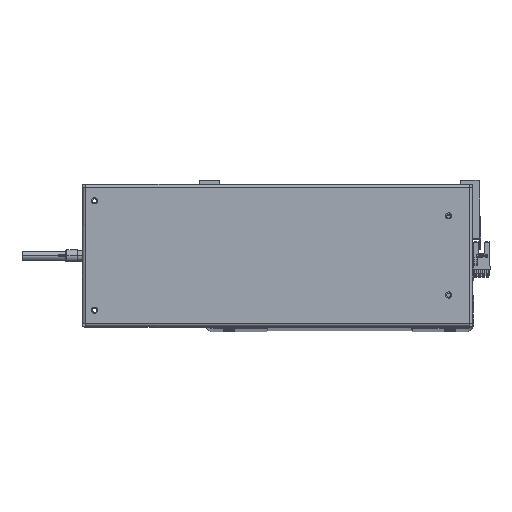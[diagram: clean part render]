
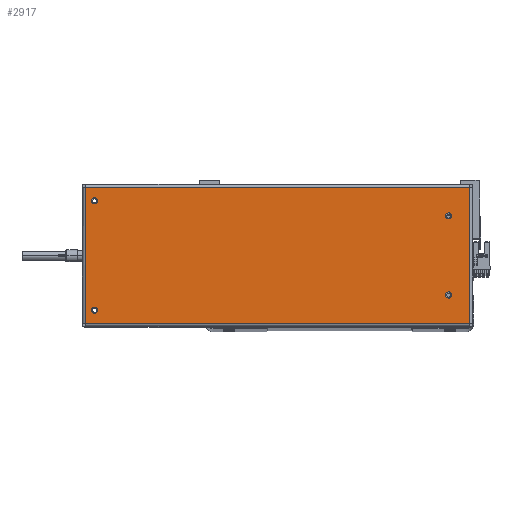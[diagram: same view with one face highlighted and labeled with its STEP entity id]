
A CAD part, top view. The second image highlights one B-rep face of the part: STEP entity #2917.
In plain terms, the highlighted planar face has unit normal (0, 0, 1).
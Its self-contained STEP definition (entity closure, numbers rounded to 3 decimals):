
#676 = FACE_BOUND ( 'NONE', #19652, .T. ) ;
#964 = CARTESIAN_POINT ( 'NONE',  ( 150.5, -45., 0. ) ) ;
#1397 = EDGE_CURVE ( 'NONE', #10500, #5608, #34716, .T. ) ;
#1685 = VECTOR ( 'NONE', #20211, 1000. ) ;
#1742 = CARTESIAN_POINT ( 'NONE',  ( -140.5, 32.5, 0. ) ) ;
#2098 = ORIENTED_EDGE ( 'NONE', *, *, #11345, .F. ) ;
#2169 = ORIENTED_EDGE ( 'NONE', *, *, #33817, .F. ) ;
#2470 = VERTEX_POINT ( 'NONE', #10881 ) ;
#2817 = CARTESIAN_POINT ( 'NONE',  ( -140.5, -32.5, 0. ) ) ;
#2824 = ORIENTED_EDGE ( 'NONE', *, *, #16297, .T. ) ;
#2917 = ADVANCED_FACE ( 'NONE', ( #676, #34354, #12089, #29381, #38343 ), #29781, .F. ) ;
#3432 = CIRCLE ( 'NONE', #30698, 2.5 ) ;
#3864 = VERTEX_POINT ( 'NONE', #33174 ) ;
#3993 = DIRECTION ( 'NONE',  ( 1., 0., 0. ) ) ;
#4047 = DIRECTION ( 'NONE',  ( 0., -1., 0. ) ) ;
#4221 = VERTEX_POINT ( 'NONE', #25212 ) ;
#4460 = AXIS2_PLACEMENT_3D ( 'NONE', #35690, #29140, #9949 ) ;
#4637 = CARTESIAN_POINT ( 'NONE',  ( 157.7, 55.6, 0. ) ) ;
#4733 = CARTESIAN_POINT ( 'NONE',  ( -157.7, -55.6, 0. ) ) ;
#5364 = VERTEX_POINT ( 'NONE', #12574 ) ;
#5484 = ORIENTED_EDGE ( 'NONE', *, *, #39311, .F. ) ;
#5608 = VERTEX_POINT ( 'NONE', #17911 ) ;
#6157 = CARTESIAN_POINT ( 'NONE',  ( -138., 32.5, 0. ) ) ;
#6228 = AXIS2_PLACEMENT_3D ( 'NONE', #2817, #12385, #28397 ) ;
#6769 = CARTESIAN_POINT ( 'NONE',  ( -140.5, 32.5, 0. ) ) ;
#7775 = AXIS2_PLACEMENT_3D ( 'NONE', #28595, #19021, #22356 ) ;
#8294 = CIRCLE ( 'NONE', #11568, 2.5 ) ;
#9499 = VERTEX_POINT ( 'NONE', #41114 ) ;
#9747 = EDGE_CURVE ( 'NONE', #32911, #5364, #28928, .T. ) ;
#9949 = DIRECTION ( 'NONE',  ( 1., 0., 0. ) ) ;
#10094 = DIRECTION ( 'NONE',  ( 0., 0., 1. ) ) ;
#10500 = VERTEX_POINT ( 'NONE', #28614 ) ;
#10881 = CARTESIAN_POINT ( 'NONE',  ( -157.6, -55.6, 0. ) ) ;
#11334 = EDGE_CURVE ( 'NONE', #4221, #27095, #39776, .T. ) ;
#11345 = EDGE_CURVE ( 'NONE', #9499, #12620, #34304, .T. ) ;
#11568 = AXIS2_PLACEMENT_3D ( 'NONE', #964, #23077, #29595 ) ;
#11884 = CIRCLE ( 'NONE', #4460, 2.5 ) ;
#12089 = FACE_BOUND ( 'NONE', #37389, .T. ) ;
#12385 = DIRECTION ( 'NONE',  ( 0., 0., 1. ) ) ;
#12574 = CARTESIAN_POINT ( 'NONE',  ( 153., 45., 0. ) ) ;
#12620 = VERTEX_POINT ( 'NONE', #6157 ) ;
#12955 = EDGE_CURVE ( 'NONE', #40863, #26630, #19819, .T. ) ;
#13022 = ORIENTED_EDGE ( 'NONE', *, *, #11334, .T. ) ;
#13260 = DIRECTION ( 'NONE',  ( 1., 0., 0. ) ) ;
#13309 = DIRECTION ( 'NONE',  ( 0., 0., 1. ) ) ;
#13789 = CARTESIAN_POINT ( 'NONE',  ( 148., 45., 0. ) ) ;
#14067 = DIRECTION ( 'NONE',  ( 1., 0., 0. ) ) ;
#15200 = ORIENTED_EDGE ( 'NONE', *, *, #1397, .F. ) ;
#16288 = DIRECTION ( 'NONE',  ( 0., 0., 1. ) ) ;
#16297 = EDGE_CURVE ( 'NONE', #2470, #3864, #32898, .T. ) ;
#17089 = EDGE_LOOP ( 'NONE', ( #18837, #2098 ) ) ;
#17517 = CARTESIAN_POINT ( 'NONE',  ( 153., -45., 0. ) ) ;
#17911 = CARTESIAN_POINT ( 'NONE',  ( -143., -32.5, 0. ) ) ;
#18837 = ORIENTED_EDGE ( 'NONE', *, *, #27097, .F. ) ;
#19021 = DIRECTION ( 'NONE',  ( 0., 0., 1. ) ) ;
#19099 = EDGE_LOOP ( 'NONE', ( #30674, #2824, #29504, #13022 ) ) ;
#19500 = CARTESIAN_POINT ( 'NONE',  ( -157.6, 55.6, 0. ) ) ;
#19559 = VECTOR ( 'NONE', #4047, 1000. ) ;
#19652 = EDGE_LOOP ( 'NONE', ( #15200, #26435 ) ) ;
#19819 = CIRCLE ( 'NONE', #22435, 2.5 ) ;
#20211 = DIRECTION ( 'NONE',  ( 1., 0., 0. ) ) ;
#22348 = DIRECTION ( 'NONE',  ( 0., 1., 0. ) ) ;
#22356 = DIRECTION ( 'NONE',  ( 1., 0., 0. ) ) ;
#22435 = AXIS2_PLACEMENT_3D ( 'NONE', #29193, #13309, #35465 ) ;
#22868 = AXIS2_PLACEMENT_3D ( 'NONE', #22930, #16288, #3993 ) ;
#22930 = CARTESIAN_POINT ( 'NONE',  ( 150.5, 45., 0. ) ) ;
#23077 = DIRECTION ( 'NONE',  ( 0., 0., 1. ) ) ;
#23454 = DIRECTION ( 'NONE',  ( -1., 0., 0. ) ) ;
#24263 = CIRCLE ( 'NONE', #7775, 2.5 ) ;
#24753 = AXIS2_PLACEMENT_3D ( 'NONE', #1742, #29970, #14067 ) ;
#25212 = CARTESIAN_POINT ( 'NONE',  ( 157.6, 55.6, 0. ) ) ;
#25486 = VECTOR ( 'NONE', #22348, 1000. ) ;
#25709 = CARTESIAN_POINT ( 'NONE',  ( -157.6, 55.6, 0. ) ) ;
#26435 = ORIENTED_EDGE ( 'NONE', *, *, #27106, .F. ) ;
#26592 = DIRECTION ( 'NONE',  ( 0., 0., -1. ) ) ;
#26630 = VERTEX_POINT ( 'NONE', #28104 ) ;
#26856 = DIRECTION ( 'NONE',  ( -1., 0., 0. ) ) ;
#27095 = VERTEX_POINT ( 'NONE', #25709 ) ;
#27097 = EDGE_CURVE ( 'NONE', #12620, #9499, #3432, .T. ) ;
#27106 = EDGE_CURVE ( 'NONE', #5608, #10500, #11884, .T. ) ;
#27843 = VECTOR ( 'NONE', #23454, 1000. ) ;
#28104 = CARTESIAN_POINT ( 'NONE',  ( 148., -45., 0. ) ) ;
#28397 = DIRECTION ( 'NONE',  ( 1., 0., 0. ) ) ;
#28595 = CARTESIAN_POINT ( 'NONE',  ( 150.5, 45., 0. ) ) ;
#28614 = CARTESIAN_POINT ( 'NONE',  ( -138., -32.5, 0. ) ) ;
#28720 = EDGE_CURVE ( 'NONE', #27095, #2470, #37444, .T. ) ;
#28928 = CIRCLE ( 'NONE', #22868, 2.5 ) ;
#29140 = DIRECTION ( 'NONE',  ( 0., 0., 1. ) ) ;
#29193 = CARTESIAN_POINT ( 'NONE',  ( 150.5, -45., 0. ) ) ;
#29381 = FACE_BOUND ( 'NONE', #38236, .T. ) ;
#29504 = ORIENTED_EDGE ( 'NONE', *, *, #34985, .T. ) ;
#29595 = DIRECTION ( 'NONE',  ( 1., 0., 0. ) ) ;
#29781 = PLANE ( 'NONE',  #30653 ) ;
#29970 = DIRECTION ( 'NONE',  ( 0., 0., 1. ) ) ;
#30653 = AXIS2_PLACEMENT_3D ( 'NONE', #33390, #26592, #26856 ) ;
#30674 = ORIENTED_EDGE ( 'NONE', *, *, #28720, .T. ) ;
#30698 = AXIS2_PLACEMENT_3D ( 'NONE', #6769, #10094, #13260 ) ;
#32898 = LINE ( 'NONE', #4733, #1685 ) ;
#32911 = VERTEX_POINT ( 'NONE', #13789 ) ;
#33174 = CARTESIAN_POINT ( 'NONE',  ( 157.6, -55.6, 0. ) ) ;
#33390 = CARTESIAN_POINT ( 'NONE',  ( 157.7, 58.5, 0. ) ) ;
#33817 = EDGE_CURVE ( 'NONE', #26630, #40863, #8294, .T. ) ;
#34304 = CIRCLE ( 'NONE', #24753, 2.5 ) ;
#34354 = FACE_BOUND ( 'NONE', #17089, .T. ) ;
#34443 = LINE ( 'NONE', #37763, #25486 ) ;
#34716 = CIRCLE ( 'NONE', #6228, 2.5 ) ;
#34985 = EDGE_CURVE ( 'NONE', #3864, #4221, #34443, .T. ) ;
#35465 = DIRECTION ( 'NONE',  ( 1., 0., 0. ) ) ;
#35690 = CARTESIAN_POINT ( 'NONE',  ( -140.5, -32.5, 0. ) ) ;
#35846 = ORIENTED_EDGE ( 'NONE', *, *, #12955, .F. ) ;
#37389 = EDGE_LOOP ( 'NONE', ( #35846, #2169 ) ) ;
#37444 = LINE ( 'NONE', #19500, #19559 ) ;
#37763 = CARTESIAN_POINT ( 'NONE',  ( 157.6, -55.6, 0. ) ) ;
#38133 = ORIENTED_EDGE ( 'NONE', *, *, #9747, .F. ) ;
#38236 = EDGE_LOOP ( 'NONE', ( #5484, #38133 ) ) ;
#38343 = FACE_OUTER_BOUND ( 'NONE', #19099, .T. ) ;
#39311 = EDGE_CURVE ( 'NONE', #5364, #32911, #24263, .T. ) ;
#39776 = LINE ( 'NONE', #4637, #27843 ) ;
#40863 = VERTEX_POINT ( 'NONE', #17517 ) ;
#41114 = CARTESIAN_POINT ( 'NONE',  ( -143., 32.5, 0. ) ) ;
